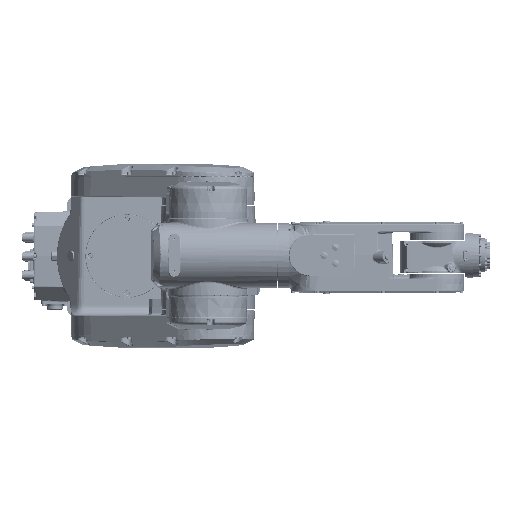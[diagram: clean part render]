
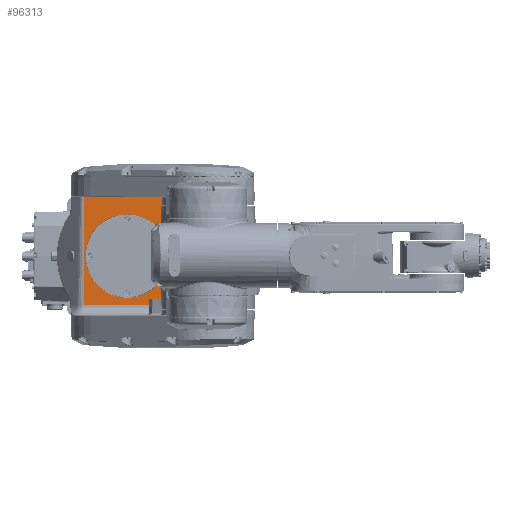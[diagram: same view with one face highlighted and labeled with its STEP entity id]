
A CAD part, top view. The second image highlights one B-rep face of the part: STEP entity #96313.
In plain terms, the highlighted planar face has unit normal (-0.052, 0.035, 0.998).
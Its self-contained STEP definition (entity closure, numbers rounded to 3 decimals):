
#5692 = FACE_OUTER_BOUND ( 'NONE', #219514, .T. ) ;
#11275 = ORIENTED_EDGE ( 'NONE', *, *, #105879, .T. ) ;
#15939 = EDGE_CURVE ( 'NONE', #194535, #48365, #176973, .T. ) ;
#18666 = DIRECTION ( 'NONE',  ( -0.002, -0.999, 0.035 ) ) ;
#20977 = LINE ( 'NONE', #48801, #241025 ) ;
#23375 = VECTOR ( 'NONE', #203089, 1000. ) ;
#30307 = FACE_BOUND ( 'NONE', #300159, .T. ) ;
#41605 = VERTEX_POINT ( 'NONE', #154685 ) ;
#46597 =( BOUNDED_CURVE ( )  B_SPLINE_CURVE ( 3, ( #113807, #190696, #238128, #308551 ),
 .UNSPECIFIED., .F., .T. ) 
 B_SPLINE_CURVE_WITH_KNOTS ( ( 4, 4 ),
 ( 1.571, 4.712 ),
 .UNSPECIFIED. ) 
 CURVE ( )  GEOMETRIC_REPRESENTATION_ITEM ( )  RATIONAL_B_SPLINE_CURVE ( ( 1., 0.333, 0.333, 1. ) ) 
 REPRESENTATION_ITEM ( '' )  );
#48365 = VERTEX_POINT ( 'NONE', #211563 ) ;
#48801 = CARTESIAN_POINT ( 'NONE',  ( -81.024, -90.698, 412.038 ) ) ;
#62733 = CARTESIAN_POINT ( 'NONE',  ( -8.116, 109.5, 408.858 ) ) ;
#82712 = VECTOR ( 'NONE', #18666, 1000. ) ;
#89848 = VECTOR ( 'NONE', #193536, 1000. ) ;
#91586 = CARTESIAN_POINT ( 'NONE',  ( -80.658, 109.5, 405.056 ) ) ;
#91665 = CARTESIAN_POINT ( 'NONE',  ( -81.024, -90.698, 412.038 ) ) ;
#96313 = ADVANCED_FACE ( 'NONE', ( #30307, #5692 ), #205383, .T. ) ;
#99833 = EDGE_CURVE ( 'NONE', #41605, #194999, #46597, .T. ) ;
#105879 = EDGE_CURVE ( 'NONE', #237442, #183254, #286873, .T. ) ;
#113807 = CARTESIAN_POINT ( 'NONE',  ( -77.87, 0., 409.031 ) ) ;
#128538 = DIRECTION ( 'NONE',  ( -0.052, 0.035, 0.998 ) ) ;
#129375 = ORIENTED_EDGE ( 'NONE', *, *, #15939, .T. ) ;
#133006 = CARTESIAN_POINT ( 'NONE',  ( 76.918, 0., 417.143 ) ) ;
#147819 = EDGE_CURVE ( 'NONE', #237442, #48365, #167652, .T. ) ;
#152905 = CARTESIAN_POINT ( 'NONE',  ( 76.918, 0., 417.143 ) ) ;
#154685 = CARTESIAN_POINT ( 'NONE',  ( -77.87, 0., 409.031 ) ) ;
#155816 = AXIS2_PLACEMENT_3D ( 'NONE', #179246, #128538, #277412 ) ;
#167652 = LINE ( 'NONE', #195388, #82712 ) ;
#170305 = EDGE_CURVE ( 'NONE', #194535, #183254, #20977, .T. ) ;
#176973 = LINE ( 'NONE', #222823, #23375 ) ;
#179246 = CARTESIAN_POINT ( 'NONE',  ( -8.116, 109.5, 408.858 ) ) ;
#183254 = VERTEX_POINT ( 'NONE', #91586 ) ;
#190696 = CARTESIAN_POINT ( 'NONE',  ( -77.587, 155., 403.626 ) ) ;
#193536 = DIRECTION ( 'NONE',  ( -0.999, 0., -0.052 ) ) ;
#194535 = VERTEX_POINT ( 'NONE', #91665 ) ;
#194999 = VERTEX_POINT ( 'NONE', #133006 ) ;
#195388 = CARTESIAN_POINT ( 'NONE',  ( 84.546, -90.698, 420.715 ) ) ;
#203089 = DIRECTION ( 'NONE',  ( 0.999, 0., 0.052 ) ) ;
#205383 = PLANE ( 'NONE',  #155816 ) ;
#210044 = CARTESIAN_POINT ( 'NONE',  ( -77.87, 0., 409.031 ) ) ;
#211563 = CARTESIAN_POINT ( 'NONE',  ( 84.546, -90.698, 420.715 ) ) ;
#219514 = EDGE_LOOP ( 'NONE', ( #259014, #11275, #307551, #129375 ) ) ;
#222823 = CARTESIAN_POINT ( 'NONE',  ( -8.482, -90.698, 415.839 ) ) ;
#230273 = CARTESIAN_POINT ( 'NONE',  ( 84.912, 109.5, 413.733 ) ) ;
#237442 = VERTEX_POINT ( 'NONE', #230273 ) ;
#238128 = CARTESIAN_POINT ( 'NONE',  ( 77.201, 155., 411.738 ) ) ;
#241025 = VECTOR ( 'NONE', #306763, 1000. ) ;
#252652 = CARTESIAN_POINT ( 'NONE',  ( 76.634, -155., 422.549 ) ) ;
#253773 =( BOUNDED_CURVE ( )  B_SPLINE_CURVE ( 3, ( #152905, #252652, #323114, #210044 ),
 .UNSPECIFIED., .F., .T. ) 
 B_SPLINE_CURVE_WITH_KNOTS ( ( 4, 4 ),
 ( 4.712, 7.854 ),
 .UNSPECIFIED. ) 
 CURVE ( )  GEOMETRIC_REPRESENTATION_ITEM ( )  RATIONAL_B_SPLINE_CURVE ( ( 1., 0.333, 0.333, 1. ) ) 
 REPRESENTATION_ITEM ( '' )  );
#259014 = ORIENTED_EDGE ( 'NONE', *, *, #147819, .F. ) ;
#277412 = DIRECTION ( 'NONE',  ( 0.999, 0., 0.052 ) ) ;
#278655 = ORIENTED_EDGE ( 'NONE', *, *, #99833, .T. ) ;
#286873 = LINE ( 'NONE', #62733, #89848 ) ;
#288127 = EDGE_CURVE ( 'NONE', #194999, #41605, #253773, .T. ) ;
#291744 = ORIENTED_EDGE ( 'NONE', *, *, #288127, .T. ) ;
#300159 = EDGE_LOOP ( 'NONE', ( #291744, #278655 ) ) ;
#306763 = DIRECTION ( 'NONE',  ( 0.002, 0.999, -0.035 ) ) ;
#307551 = ORIENTED_EDGE ( 'NONE', *, *, #170305, .F. ) ;
#308551 = CARTESIAN_POINT ( 'NONE',  ( 76.918, 0., 417.143 ) ) ;
#323114 = CARTESIAN_POINT ( 'NONE',  ( -78.153, -155., 414.437 ) ) ;
